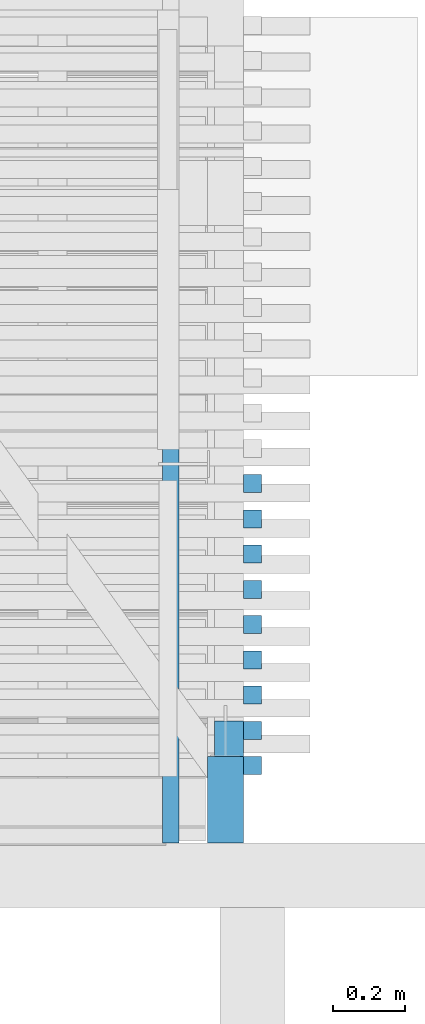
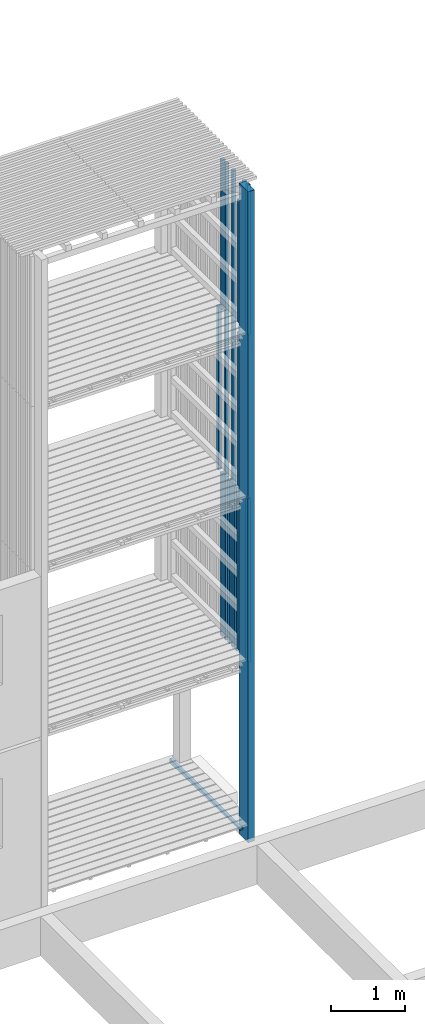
# One storey, part 70 of 182: 20 beams.
"""IFC2X3 building model written with IfcOpenShell, lengths in metres."""

from ifc_helpers import new_model, si_unit, frame, origin, place, context, project, spatial, faceted_brep, element, save


model = new_model("IFC2X3")

# Units and contexts
model_context = context("Model", 3, precision=1e-06, world=origin())
ifc_project = project(units=[si_unit("LENGTHUNIT", "METRE"), si_unit("PLANEANGLEUNIT", "RADIAN")], contexts=[model_context])

# Site, building, storey
site = spatial("IfcSite", under=ifc_project, CompositionType="ELEMENT")
building = spatial("IfcBuilding", under=site, CompositionType="ELEMENT")
storey = spatial("IfcBuildingStorey", under=building, Name="vs", CompositionType="ELEMENT", Elevation=-0.85)

# Beams
placement = place(None, origin())
beam_1_placement = place(placement, frame((26.399999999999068, 10.783259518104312, 7.974999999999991), z_axis=(-1.0, 0.0, 0.0), x_axis=(0.0, 0.0, 1.0)))
element("IfcBeam", 1, at=beam_1_placement, inside=storey, Name="Bardage", context=model_context, shape_type="Brep", body=[
    faceted_brep([(2.479999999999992, -0.025000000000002, 0.024999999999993), (2.479999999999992, -0.025000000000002, -0.025000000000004), (2.479999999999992, 0.024999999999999, -0.025000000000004), (2.479999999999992, 0.024999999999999, 0.024999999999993), (0.0, 0.024999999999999, 0.024999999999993), (0.0, -0.025000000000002, 0.024999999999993), (2.479999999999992, -0.025000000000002, 0.024999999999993), (2.479999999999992, 0.024999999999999, 0.024999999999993), (0.0, -0.025000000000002, 0.024999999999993), (0.0, 0.024999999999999, 0.024999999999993), (0.0, 0.024999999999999, -0.025000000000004), (0.0, -0.025000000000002, -0.025000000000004), (0.0, 0.024999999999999, -0.025000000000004), (0.0, 0.024999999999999, 0.024999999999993), (2.479999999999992, 0.024999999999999, 0.024999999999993), (2.479999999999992, 0.024999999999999, -0.025000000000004), (0.0, -0.025000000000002, -0.025000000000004), (0.0, 0.024999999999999, -0.025000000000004), (2.479999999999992, 0.024999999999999, -0.025000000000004), (2.479999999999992, -0.025000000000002, -0.025000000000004), (2.479999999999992, -0.025000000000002, 0.024999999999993), (0.0, -0.025000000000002, 0.024999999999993), (0.0, -0.025000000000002, -0.025000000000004), (2.479999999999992, -0.025000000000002, -0.025000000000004)], [[[0, 1, 2, 3]], [[4, 5, 6, 7]], [[8, 9, 10, 11]], [[12, 13, 14, 15]], [[16, 17, 18, 19]], [[20, 21, 22, 23]]]),
])
beam_2_placement = place(placement, frame((26.399999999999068, 11.274168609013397, 2.575000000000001), z_axis=(-1.0, 0.0, 0.0), x_axis=(0.0, 0.0, 1.0)))
element("IfcBeam", 2, at=beam_2_placement, inside=storey, Name="Bardage", context=model_context, shape_type="Brep", body=[
    faceted_brep([(0.0, -0.025000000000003, 0.024999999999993), (0.0, 0.024999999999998, 0.024999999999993), (0.0, 0.024999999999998, -0.025000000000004), (0.0, -0.025000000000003, -0.025000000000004), (2.699961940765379, 0.024999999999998, -0.025000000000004), (2.699961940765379, 0.024999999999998, 0.024999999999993), (2.699961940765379, -0.025000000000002, 0.024999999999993), (2.699961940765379, -0.025000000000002, -0.025000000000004), (0.0, -0.025000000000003, -0.025000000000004), (0.0, 0.024999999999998, -0.025000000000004), (2.699961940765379, 0.024999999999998, -0.025000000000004), (2.699961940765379, -0.025000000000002, -0.025000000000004), (2.699961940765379, 0.024999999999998, -0.025000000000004), (0.0, 0.024999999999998, -0.025000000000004), (0.0, 0.024999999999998, 0.024999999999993), (2.699961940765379, 0.024999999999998, 0.024999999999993), (2.699961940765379, 0.024999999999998, 0.024999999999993), (0.0, 0.024999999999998, 0.024999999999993), (0.0, -0.025000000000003, 0.024999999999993), (2.699961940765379, -0.025000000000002, 0.024999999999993), (2.699961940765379, -0.025000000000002, 0.024999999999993), (0.0, -0.025000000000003, 0.024999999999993), (0.0, -0.025000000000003, -0.025000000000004), (2.699961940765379, -0.025000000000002, -0.025000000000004)], [[[0, 1, 2, 3]], [[4, 5, 6, 7]], [[8, 9, 10, 11]], [[12, 13, 14, 15]], [[16, 17, 18, 19]], [[20, 21, 22, 23]]]),
])
beam_3_placement = place(placement, frame((26.399999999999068, 11.372350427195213, 7.974999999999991), z_axis=(-1.0, 0.0, 0.0), x_axis=(0.0, 0.0, 1.0)))
element("IfcBeam", 3, at=beam_3_placement, inside=storey, Name="Bardage", context=model_context, shape_type="Brep", body=[
    faceted_brep([(2.479999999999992, -0.024999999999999, 0.024999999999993), (2.479999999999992, -0.024999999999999, -0.025000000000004), (2.479999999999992, 0.024999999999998, -0.025000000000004), (2.479999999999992, 0.024999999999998, 0.024999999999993), (0.0, 0.024999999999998, 0.024999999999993), (0.0, -0.024999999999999, 0.024999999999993), (2.479999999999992, -0.024999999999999, 0.024999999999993), (2.479999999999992, 0.024999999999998, 0.024999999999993), (0.0, -0.024999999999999, 0.024999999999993), (0.0, 0.024999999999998, 0.024999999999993), (0.0, 0.024999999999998, -0.025000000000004), (0.0, -0.024999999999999, -0.025000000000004), (0.0, 0.024999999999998, -0.025000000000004), (0.0, 0.024999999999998, 0.024999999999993), (2.479999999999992, 0.024999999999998, 0.024999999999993), (2.479999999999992, 0.024999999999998, -0.025000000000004), (0.0, -0.024999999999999, -0.025000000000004), (0.0, 0.024999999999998, -0.025000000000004), (2.479999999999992, 0.024999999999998, -0.025000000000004), (2.479999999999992, -0.024999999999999, -0.025000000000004), (2.479999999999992, -0.024999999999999, 0.024999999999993), (0.0, -0.024999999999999, 0.024999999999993), (0.0, -0.024999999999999, -0.025000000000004), (2.479999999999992, -0.024999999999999, -0.025000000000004)], [[[0, 1, 2, 3]], [[4, 5, 6, 7]], [[8, 9, 10, 11]], [[12, 13, 14, 15]], [[16, 17, 18, 19]], [[20, 21, 22, 23]]]),
])
beam_4_placement = place(placement, frame((26.399999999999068, 11.17598679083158, 2.575000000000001), z_axis=(-1.0, 0.0, 0.0), x_axis=(0.0, 0.0, 1.0)))
element("IfcBeam", 4, at=beam_4_placement, inside=storey, Name="Bardage", context=model_context, shape_type="Brep", body=[
    faceted_brep([(0.0, -0.025000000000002, 0.024999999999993), (0.0, 0.024999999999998, 0.024999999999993), (0.0, 0.024999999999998, -0.025000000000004), (0.0, -0.025000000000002, -0.025000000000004), (2.699961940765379, 0.025000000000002, -0.025000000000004), (2.699961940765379, 0.025000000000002, 0.024999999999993), (2.699961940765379, -0.025000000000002, 0.024999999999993), (2.699961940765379, -0.025000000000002, -0.025000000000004), (0.0, -0.025000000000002, -0.025000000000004), (0.0, 0.024999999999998, -0.025000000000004), (2.699961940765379, 0.025000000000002, -0.025000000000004), (2.699961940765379, -0.025000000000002, -0.025000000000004), (2.699961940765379, 0.025000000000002, -0.025000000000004), (0.0, 0.024999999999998, -0.025000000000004), (0.0, 0.024999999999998, 0.024999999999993), (2.699961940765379, 0.025000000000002, 0.024999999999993), (2.699961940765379, 0.025000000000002, 0.024999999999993), (0.0, 0.024999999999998, 0.024999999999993), (0.0, -0.025000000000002, 0.024999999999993), (2.699961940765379, -0.025000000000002, 0.024999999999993), (2.699961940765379, -0.025000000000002, 0.024999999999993), (0.0, -0.025000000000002, 0.024999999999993), (0.0, -0.025000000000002, -0.025000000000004), (2.699961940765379, -0.025000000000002, -0.025000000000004)], [[[0, 1, 2, 3]], [[4, 5, 6, 7]], [[8, 9, 10, 11]], [[12, 13, 14, 15]], [[16, 17, 18, 19]], [[20, 21, 22, 23]]]),
])
beam_5_placement = place(placement, frame((26.399999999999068, 11.077804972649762, 2.575000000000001), z_axis=(-1.0, 0.0, 0.0), x_axis=(0.0, 0.0, 1.0)))
element("IfcBeam", 5, at=beam_5_placement, inside=storey, Name="Bardage", context=model_context, shape_type="Brep", body=[
    faceted_brep([(0.0, -0.024999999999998, 0.024999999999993), (0.0, 0.024999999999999, 0.024999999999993), (0.0, 0.024999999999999, -0.025000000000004), (0.0, -0.024999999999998, -0.025000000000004), (2.699961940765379, 0.024999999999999, -0.025000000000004), (2.699961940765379, 0.024999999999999, 0.024999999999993), (2.699961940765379, -0.024999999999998, 0.024999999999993), (2.699961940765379, -0.024999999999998, -0.025000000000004), (0.0, -0.024999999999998, -0.025000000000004), (0.0, 0.024999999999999, -0.025000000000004), (2.699961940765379, 0.024999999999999, -0.025000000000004), (2.699961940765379, -0.024999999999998, -0.025000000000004), (2.699961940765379, 0.024999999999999, -0.025000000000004), (0.0, 0.024999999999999, -0.025000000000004), (0.0, 0.024999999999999, 0.024999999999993), (2.699961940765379, 0.024999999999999, 0.024999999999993), (2.699961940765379, 0.024999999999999, 0.024999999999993), (0.0, 0.024999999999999, 0.024999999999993), (0.0, -0.024999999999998, 0.024999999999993), (2.699961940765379, -0.024999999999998, 0.024999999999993), (2.699961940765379, -0.024999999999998, 0.024999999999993), (0.0, -0.024999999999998, 0.024999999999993), (0.0, -0.024999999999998, -0.025000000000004), (2.699961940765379, -0.024999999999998, -0.025000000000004)], [[[0, 1, 2, 3]], [[4, 5, 6, 7]], [[8, 9, 10, 11]], [[12, 13, 14, 15]], [[16, 17, 18, 19]], [[20, 21, 22, 23]]]),
])
beam_6_placement = place(placement, frame((26.334999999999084, 10.760077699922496, 8.14699999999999), z_axis=(0.0, 1.0, 0.0), x_axis=(0.0, 0.0, 1.0)))
element("IfcBeam", 6, at=beam_6_placement, inside=storey, Name="Support bardage", context=model_context, shape_type="Brep", body=[
    faceted_brep([(2.017999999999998, 0.039999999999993, -0.050000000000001), (2.017999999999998, 0.039999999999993, 0.05), (2.017999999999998, -0.04000000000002, 0.05), (2.017999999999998, -0.04000000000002, -0.050000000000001), (1e-15, -0.04000000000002, -0.050000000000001), (1e-15, -0.04000000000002, 0.05), (1e-15, 0.039999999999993, 0.05), (1e-15, 0.039999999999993, -0.050000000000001), (1e-15, -0.04000000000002, -0.050000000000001), (1e-15, 0.039999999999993, -0.050000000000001), (2.017999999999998, 0.039999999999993, -0.050000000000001), (2.017999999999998, -0.04000000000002, -0.050000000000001), (1e-15, -0.04000000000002, 0.05), (1e-15, -0.04000000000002, -0.050000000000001), (2.017999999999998, -0.04000000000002, -0.050000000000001), (2.017999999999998, -0.04000000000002, 0.05), (1e-15, 0.039999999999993, 0.05), (1e-15, -0.04000000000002, 0.05), (2.017999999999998, -0.04000000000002, 0.05), (2.017999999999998, 0.039999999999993, 0.05), (1e-15, 0.039999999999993, -0.050000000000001), (1e-15, 0.039999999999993, 0.05), (2.017999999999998, 0.039999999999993, 0.05), (2.017999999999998, 0.039999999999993, -0.050000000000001)], [[[0, 1, 2, 3]], [[4, 5, 6, 7]], [[8, 9, 10, 11]], [[12, 13, 14, 15]], [[16, 17, 18, 19]], [[20, 21, 22, 23]]]),
])
beam_7_placement = place(placement, frame((26.399999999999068, 11.077804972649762, 7.974999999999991), z_axis=(-1.0, 0.0, 0.0), x_axis=(0.0, 0.0, 1.0)))
element("IfcBeam", 7, at=beam_7_placement, inside=storey, Name="Bardage", context=model_context, shape_type="Brep", body=[
    faceted_brep([(2.479999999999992, -0.024999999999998, 0.024999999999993), (2.479999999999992, -0.024999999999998, -0.025000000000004), (2.479999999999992, 0.024999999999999, -0.025000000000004), (2.479999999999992, 0.024999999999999, 0.024999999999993), (0.0, 0.024999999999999, 0.024999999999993), (0.0, -0.024999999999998, 0.024999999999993), (2.479999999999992, -0.024999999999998, 0.024999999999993), (2.479999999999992, 0.024999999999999, 0.024999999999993), (0.0, -0.024999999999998, 0.024999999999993), (0.0, 0.024999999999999, 0.024999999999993), (0.0, 0.024999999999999, -0.025000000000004), (0.0, -0.024999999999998, -0.025000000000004), (0.0, 0.024999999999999, -0.025000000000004), (0.0, 0.024999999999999, 0.024999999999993), (2.479999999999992, 0.024999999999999, 0.024999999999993), (2.479999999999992, 0.024999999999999, -0.025000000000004), (0.0, -0.024999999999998, -0.025000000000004), (0.0, 0.024999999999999, -0.025000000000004), (2.479999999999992, 0.024999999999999, -0.025000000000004), (2.479999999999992, -0.024999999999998, -0.025000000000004), (2.479999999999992, -0.024999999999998, 0.024999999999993), (0.0, -0.024999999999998, 0.024999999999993), (0.0, -0.024999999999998, -0.025000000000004), (2.479999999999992, -0.024999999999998, -0.025000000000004)], [[[0, 1, 2, 3]], [[4, 5, 6, 7]], [[8, 9, 10, 11]], [[12, 13, 14, 15]], [[16, 17, 18, 19]], [[20, 21, 22, 23]]]),
])
beam_8_placement = place(placement, frame((26.399999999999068, 11.274168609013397, 5.274999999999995), z_axis=(-1.0, 0.0, 0.0), x_axis=(0.0, 0.0, 1.0)))
element("IfcBeam", 8, at=beam_8_placement, inside=storey, Name="Bardage", context=model_context, shape_type="Brep", body=[
    faceted_brep([(1e-15, -0.025000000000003, 0.024999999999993), (1e-15, 0.024999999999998, 0.024999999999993), (1e-15, 0.024999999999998, -0.025000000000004), (1e-15, -0.025000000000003, -0.025000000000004), (2.699999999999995, -0.025000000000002, -0.025000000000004), (2.699999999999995, 0.024999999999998, -0.025000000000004), (2.699999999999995, 0.024999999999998, 0.024999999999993), (2.699999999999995, -0.025000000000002, 0.024999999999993), (1e-15, -0.025000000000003, 0.024999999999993), (1e-15, -0.025000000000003, -0.025000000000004), (2.699999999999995, -0.025000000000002, -0.025000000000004), (2.699999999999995, -0.025000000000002, 0.024999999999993), (2.699999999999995, -0.025000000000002, -0.025000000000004), (1e-15, -0.025000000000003, -0.025000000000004), (1e-15, 0.024999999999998, -0.025000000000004), (2.699999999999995, 0.024999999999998, -0.025000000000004), (2.699999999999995, 0.024999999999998, -0.025000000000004), (1e-15, 0.024999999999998, -0.025000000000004), (1e-15, 0.024999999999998, 0.024999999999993), (2.699999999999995, 0.024999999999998, 0.024999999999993), (2.699999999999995, 0.024999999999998, 0.024999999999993), (1e-15, 0.024999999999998, 0.024999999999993), (1e-15, -0.025000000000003, 0.024999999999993), (2.699999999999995, -0.025000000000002, 0.024999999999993)], [[[0, 1, 2, 3]], [[4, 5, 6, 7]], [[8, 9, 10, 11]], [[12, 13, 14, 15]], [[16, 17, 18, 19]], [[20, 21, 22, 23]]]),
])
beam_9_placement = place(placement, frame((26.399999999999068, 10.97962315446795, 2.575000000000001), z_axis=(-1.0, 0.0, 0.0), x_axis=(0.0, 0.0, 1.0)))
element("IfcBeam", 9, at=beam_9_placement, inside=storey, Name="Bardage", context=model_context, shape_type="Brep", body=[
    faceted_brep([(0.0, -0.025000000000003, 0.024999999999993), (0.0, 0.024999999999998, 0.024999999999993), (0.0, 0.024999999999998, -0.025000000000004), (0.0, -0.025000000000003, -0.025000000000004), (2.699961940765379, 0.024999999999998, -0.025000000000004), (2.699961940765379, 0.024999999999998, 0.024999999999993), (2.699961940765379, -0.025000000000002, 0.024999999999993), (2.699961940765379, -0.025000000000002, -0.025000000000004), (0.0, -0.025000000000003, -0.025000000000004), (0.0, 0.024999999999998, -0.025000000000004), (2.699961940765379, 0.024999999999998, -0.025000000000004), (2.699961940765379, -0.025000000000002, -0.025000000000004), (2.699961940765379, 0.024999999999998, -0.025000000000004), (0.0, 0.024999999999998, -0.025000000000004), (0.0, 0.024999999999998, 0.024999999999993), (2.699961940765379, 0.024999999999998, 0.024999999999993), (2.699961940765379, 0.024999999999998, 0.024999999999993), (0.0, 0.024999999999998, 0.024999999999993), (0.0, -0.025000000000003, 0.024999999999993), (2.699961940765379, -0.025000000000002, 0.024999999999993), (2.699961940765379, -0.025000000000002, 0.024999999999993), (0.0, -0.025000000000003, 0.024999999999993), (0.0, -0.025000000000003, -0.025000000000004), (2.699961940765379, -0.025000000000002, -0.025000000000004)], [[[0, 1, 2, 3]], [[4, 5, 6, 7]], [[8, 9, 10, 11]], [[12, 13, 14, 15]], [[16, 17, 18, 19]], [[20, 21, 22, 23]]]),
])
beam_10_placement = place(placement, frame((26.324999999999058, 10.590077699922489, 10.494999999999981), z_axis=(0.0, 1.0, 0.0), x_axis=(0.0, 0.0, -1.0)))
element("IfcBeam", 10, at=beam_10_placement, inside=storey, Name="Poteau", context=model_context, shape_type="Brep", body=[
    faceted_brep([(0.0, -0.050000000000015, -0.120000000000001), (10.754999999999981, -0.050000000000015, -0.120000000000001), (10.754999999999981, -0.050000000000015, 0.120000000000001), (0.0, -0.050000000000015, 0.120000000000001), (0.0, 0.049999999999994, -0.120000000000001), (10.754999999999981, 0.049999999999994, -0.120000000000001), (10.754999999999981, -0.050000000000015, -0.120000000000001), (0.0, -0.050000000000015, -0.120000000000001), (10.754999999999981, -0.050000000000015, 0.120000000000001), (10.754999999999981, -0.050000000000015, -0.120000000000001), (10.754999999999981, 0.049999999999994, -0.120000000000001), (10.754999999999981, 0.049999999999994, 0.120000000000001), (0.0, -0.050000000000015, 0.120000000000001), (10.754999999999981, -0.050000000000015, 0.120000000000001), (10.754999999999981, 0.049999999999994, 0.120000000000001), (0.0, 0.049999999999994, 0.120000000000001), (0.0, 0.049999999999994, 0.120000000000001), (10.754999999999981, 0.049999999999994, 0.120000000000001), (10.754999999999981, 0.049999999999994, -0.120000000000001), (0.0, 0.049999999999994, -0.120000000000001), (0.0, 0.049999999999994, 0.120000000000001), (0.0, 0.049999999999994, -0.120000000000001), (0.0, -0.050000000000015, -0.120000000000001), (0.0, -0.050000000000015, 0.120000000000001)], [[[0, 1, 2, 3]], [[4, 5, 6, 7]], [[8, 9, 10, 11]], [[12, 13, 14, 15]], [[16, 17, 18, 19]], [[20, 21, 22, 23]]]),
])
beam_11_placement = place(placement, frame((26.399999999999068, 11.274168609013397, 7.974999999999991), z_axis=(-1.0, 0.0, 0.0), x_axis=(0.0, 0.0, 1.0)))
element("IfcBeam", 11, at=beam_11_placement, inside=storey, Name="Bardage", context=model_context, shape_type="Brep", body=[
    faceted_brep([(2.479999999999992, -0.025000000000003, 0.024999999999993), (2.479999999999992, -0.025000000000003, -0.025000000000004), (2.479999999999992, 0.024999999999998, -0.025000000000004), (2.479999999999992, 0.024999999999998, 0.024999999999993), (0.0, 0.024999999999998, 0.024999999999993), (0.0, -0.025000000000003, 0.024999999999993), (2.479999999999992, -0.025000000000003, 0.024999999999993), (2.479999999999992, 0.024999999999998, 0.024999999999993), (0.0, -0.025000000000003, 0.024999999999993), (0.0, 0.024999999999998, 0.024999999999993), (0.0, 0.024999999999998, -0.025000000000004), (0.0, -0.025000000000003, -0.025000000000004), (0.0, 0.024999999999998, -0.025000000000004), (0.0, 0.024999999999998, 0.024999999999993), (2.479999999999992, 0.024999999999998, 0.024999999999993), (2.479999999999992, 0.024999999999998, -0.025000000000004), (0.0, -0.025000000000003, -0.025000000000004), (0.0, 0.024999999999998, -0.025000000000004), (2.479999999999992, 0.024999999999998, -0.025000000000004), (2.479999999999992, -0.025000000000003, -0.025000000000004), (2.479999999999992, -0.025000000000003, 0.024999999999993), (0.0, -0.025000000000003, 0.024999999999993), (0.0, -0.025000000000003, -0.025000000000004), (2.479999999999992, -0.025000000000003, -0.025000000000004)], [[[0, 1, 2, 3]], [[4, 5, 6, 7]], [[8, 9, 10, 11]], [[12, 13, 14, 15]], [[16, 17, 18, 19]], [[20, 21, 22, 23]]]),
])
beam_12_placement = place(placement, frame((26.334999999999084, 10.760077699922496, 2.746999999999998), z_axis=(0.0, 1.0, 0.0), x_axis=(0.0, 0.0, 1.0)))
element("IfcBeam", 12, at=beam_12_placement, inside=storey, Name="Support bardage", context=model_context, shape_type="Brep", body=[
    faceted_brep([(2.527961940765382, 0.039999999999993, -0.050000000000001), (2.527961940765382, 0.039999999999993, 0.05), (2.527961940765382, -0.04000000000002, 0.05), (2.527961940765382, -0.04000000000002, -0.050000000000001), (0.0, -0.04000000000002, -0.050000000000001), (0.0, 0.039999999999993, -0.050000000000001), (2.527961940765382, 0.039999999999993, -0.050000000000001), (2.527961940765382, -0.04000000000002, -0.050000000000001), (0.0, 0.039999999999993, -0.050000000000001), (0.0, -0.04000000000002, -0.050000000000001), (0.0, -0.04000000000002, 0.05), (0.0, 0.039999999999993, 0.05), (2.527961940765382, 0.039999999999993, -0.050000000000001), (0.0, 0.039999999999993, -0.050000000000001), (0.0, 0.039999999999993, 0.05), (2.527961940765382, 0.039999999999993, 0.05), (2.527961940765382, 0.039999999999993, 0.05), (0.0, 0.039999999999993, 0.05), (0.0, -0.04000000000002, 0.05), (2.527961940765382, -0.04000000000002, 0.05), (2.527961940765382, -0.04000000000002, 0.05), (0.0, -0.04000000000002, 0.05), (0.0, -0.04000000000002, -0.050000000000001), (2.527961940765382, -0.04000000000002, -0.050000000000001)], [[[0, 1, 2, 3]], [[4, 5, 6, 7]], [[8, 9, 10, 11]], [[12, 13, 14, 15]], [[16, 17, 18, 19]], [[20, 21, 22, 23]]]),
])
beam_13_placement = place(placement, frame((26.399999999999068, 10.6850776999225, 2.575000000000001), z_axis=(-1.0, 0.0, 0.0), x_axis=(0.0, 0.0, 1.0)))
element("IfcBeam", 13, at=beam_13_placement, inside=storey, Name="Bardage", context=model_context, shape_type="Brep", body=[
    faceted_brep([(0.0, -0.025000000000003, 0.024999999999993), (0.0, 0.024999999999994, 0.024999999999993), (0.0, 0.024999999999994, -0.025000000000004), (0.0, -0.025000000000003, -0.025000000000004), (2.699961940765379, 0.024999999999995, -0.025000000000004), (2.699961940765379, 0.024999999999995, 0.024999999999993), (2.699961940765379, -0.025000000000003, 0.024999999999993), (2.699961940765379, -0.025000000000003, -0.025000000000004), (0.0, -0.025000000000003, -0.025000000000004), (0.0, 0.024999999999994, -0.025000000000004), (2.699961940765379, 0.024999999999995, -0.025000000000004), (2.699961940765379, -0.025000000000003, -0.025000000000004), (2.699961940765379, 0.024999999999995, -0.025000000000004), (0.0, 0.024999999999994, -0.025000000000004), (0.0, 0.024999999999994, 0.024999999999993), (2.699961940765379, 0.024999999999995, 0.024999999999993), (2.699961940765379, 0.024999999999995, 0.024999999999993), (0.0, 0.024999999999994, 0.024999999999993), (0.0, -0.025000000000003, 0.024999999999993), (2.699961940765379, -0.025000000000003, 0.024999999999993), (2.699961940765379, -0.025000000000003, 0.024999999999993), (0.0, -0.025000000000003, 0.024999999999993), (0.0, -0.025000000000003, -0.025000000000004), (2.699961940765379, -0.025000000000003, -0.025000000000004)], [[[0, 1, 2, 3]], [[4, 5, 6, 7]], [[8, 9, 10, 11]], [[12, 13, 14, 15]], [[16, 17, 18, 19]], [[20, 21, 22, 23]]]),
])
beam_14_placement = place(placement, frame((26.399999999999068, 11.470532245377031, 5.274999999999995), z_axis=(-1.0, 0.0, 0.0), x_axis=(0.0, 0.0, 1.0)))
element("IfcBeam", 14, at=beam_14_placement, inside=storey, Name="Bardage", context=model_context, shape_type="Brep", body=[
    faceted_brep([(1e-15, -0.025000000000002, 0.024999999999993), (1e-15, 0.025000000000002, 0.024999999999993), (1e-15, 0.025000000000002, -0.025000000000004), (1e-15, -0.025000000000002, -0.025000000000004), (2.699999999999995, -0.025000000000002, -0.025000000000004), (2.699999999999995, 0.025000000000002, -0.025000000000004), (2.699999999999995, 0.025000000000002, 0.024999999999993), (2.699999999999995, -0.025000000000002, 0.024999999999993), (1e-15, -0.025000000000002, 0.024999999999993), (1e-15, -0.025000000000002, -0.025000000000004), (2.699999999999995, -0.025000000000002, -0.025000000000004), (2.699999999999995, -0.025000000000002, 0.024999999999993), (2.699999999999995, -0.025000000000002, -0.025000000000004), (1e-15, -0.025000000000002, -0.025000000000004), (1e-15, 0.025000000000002, -0.025000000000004), (2.699999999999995, 0.025000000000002, -0.025000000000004), (2.699999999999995, 0.025000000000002, -0.025000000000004), (1e-15, 0.025000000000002, -0.025000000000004), (1e-15, 0.025000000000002, 0.024999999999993), (2.699999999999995, 0.025000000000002, 0.024999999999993), (2.699999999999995, 0.025000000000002, 0.024999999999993), (1e-15, 0.025000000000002, 0.024999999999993), (1e-15, -0.025000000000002, 0.024999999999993), (2.699999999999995, -0.025000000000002, 0.024999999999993)], [[[0, 1, 2, 3]], [[4, 5, 6, 7]], [[8, 9, 10, 11]], [[12, 13, 14, 15]], [[16, 17, 18, 19]], [[20, 21, 22, 23]]]),
])
beam_15_placement = place(placement, frame((26.399999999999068, 10.6850776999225, 7.974999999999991), z_axis=(-1.0, 0.0, 0.0), x_axis=(0.0, 0.0, 1.0)))
element("IfcBeam", 15, at=beam_15_placement, inside=storey, Name="Bardage", context=model_context, shape_type="Brep", body=[
    faceted_brep([(2.479999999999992, -0.025000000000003, 0.024999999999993), (2.479999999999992, -0.025000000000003, -0.025000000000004), (2.479999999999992, 0.024999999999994, -0.025000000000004), (2.479999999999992, 0.024999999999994, 0.024999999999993), (0.0, 0.024999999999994, 0.024999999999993), (0.0, -0.025000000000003, 0.024999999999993), (2.479999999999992, -0.025000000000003, 0.024999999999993), (2.479999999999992, 0.024999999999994, 0.024999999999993), (0.0, -0.025000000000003, 0.024999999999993), (0.0, 0.024999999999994, 0.024999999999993), (0.0, 0.024999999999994, -0.025000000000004), (0.0, -0.025000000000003, -0.025000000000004), (0.0, 0.024999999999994, -0.025000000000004), (0.0, 0.024999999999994, 0.024999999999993), (2.479999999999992, 0.024999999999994, 0.024999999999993), (2.479999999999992, 0.024999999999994, -0.025000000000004), (0.0, -0.025000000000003, -0.025000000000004), (0.0, 0.024999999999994, -0.025000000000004), (2.479999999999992, 0.024999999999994, -0.025000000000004), (2.479999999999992, -0.025000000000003, -0.025000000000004), (2.479999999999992, -0.025000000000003, 0.024999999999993), (0.0, -0.025000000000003, 0.024999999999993), (0.0, -0.025000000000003, -0.025000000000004), (2.479999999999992, -0.025000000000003, -0.025000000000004)], [[[0, 1, 2, 3]], [[4, 5, 6, 7]], [[8, 9, 10, 11]], [[12, 13, 14, 15]], [[16, 17, 18, 19]], [[20, 21, 22, 23]]]),
])
beam_16_placement = place(placement, frame((26.399999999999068, 11.077804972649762, 5.274999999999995), z_axis=(-1.0, 0.0, 0.0), x_axis=(0.0, 0.0, 1.0)))
element("IfcBeam", 16, at=beam_16_placement, inside=storey, Name="Bardage", context=model_context, shape_type="Brep", body=[
    faceted_brep([(1e-15, -0.024999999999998, 0.024999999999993), (1e-15, 0.024999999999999, 0.024999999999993), (1e-15, 0.024999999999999, -0.025000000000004), (1e-15, -0.024999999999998, -0.025000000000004), (2.699999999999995, -0.024999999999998, -0.025000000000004), (2.699999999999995, 0.024999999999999, -0.025000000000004), (2.699999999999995, 0.024999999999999, 0.024999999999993), (2.699999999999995, -0.024999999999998, 0.024999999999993), (1e-15, -0.024999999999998, 0.024999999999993), (1e-15, -0.024999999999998, -0.025000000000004), (2.699999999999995, -0.024999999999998, -0.025000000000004), (2.699999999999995, -0.024999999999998, 0.024999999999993), (2.699999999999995, -0.024999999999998, -0.025000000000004), (1e-15, -0.024999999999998, -0.025000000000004), (1e-15, 0.024999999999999, -0.025000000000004), (2.699999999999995, 0.024999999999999, -0.025000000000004), (2.699999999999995, 0.024999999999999, -0.025000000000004), (1e-15, 0.024999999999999, -0.025000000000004), (1e-15, 0.024999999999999, 0.024999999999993), (2.699999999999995, 0.024999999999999, 0.024999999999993), (2.699999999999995, 0.024999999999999, 0.024999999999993), (1e-15, 0.024999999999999, 0.024999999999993), (1e-15, -0.024999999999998, 0.024999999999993), (2.699999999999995, -0.024999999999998, 0.024999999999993)], [[[0, 1, 2, 3]], [[4, 5, 6, 7]], [[8, 9, 10, 11]], [[12, 13, 14, 15]], [[16, 17, 18, 19]], [[20, 21, 22, 23]]]),
])
beam_17_placement = place(placement, frame((26.172499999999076, 10.470077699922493, -0.015599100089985), z_axis=(0.0, 0.0, 1.0), x_axis=(0.0, 1.0, 0.0)))
element("IfcBeam", 17, at=beam_17_placement, inside=storey, Name="Calage", context=model_context, shape_type="Brep", body=[
    faceted_brep([(1.91000000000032, -0.022499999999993, -0.035599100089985), (0.0, -0.022499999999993, 0.002600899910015), (0.0, 0.022500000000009, 0.002600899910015), (1.91000000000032, 0.022500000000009, -0.035599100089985), (0.0, -0.022499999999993, 0.035599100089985), (0.0, 0.022500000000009, 0.035599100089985), (0.0, 0.022500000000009, 0.002600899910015), (0.0, -0.022499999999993, 0.002600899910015), (0.0, 0.022500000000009, 0.035599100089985), (0.0, -0.022499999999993, 0.035599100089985), (1.91000000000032, -0.022499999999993, 0.035599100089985), (1.91000000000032, 0.022500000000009, 0.035599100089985), (1.91000000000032, -0.022499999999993, 0.035599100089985), (0.0, -0.022499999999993, 0.035599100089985), (0.0, -0.022499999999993, 0.002600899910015), (1.91000000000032, -0.022499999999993, -0.035599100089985), (1.91000000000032, 0.022500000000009, 0.035599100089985), (1.91000000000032, -0.022499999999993, 0.035599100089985), (1.91000000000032, -0.022499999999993, -0.035599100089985), (1.91000000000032, 0.022500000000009, -0.035599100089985), (0.0, 0.022500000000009, 0.002600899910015), (0.0, 0.022500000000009, 0.035599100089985), (1.91000000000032, 0.022500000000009, 0.035599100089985), (1.91000000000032, 0.022500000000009, -0.035599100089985)], [[[0, 1, 2, 3]], [[4, 5, 6, 7]], [[8, 9, 10, 11]], [[12, 13, 14, 15]], [[16, 17, 18, 19]], [[20, 21, 22, 23]]]),
])
beam_18_placement = place(placement, frame((26.334999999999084, 10.760077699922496, 5.446999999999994), z_axis=(0.0, 1.0, 0.0), x_axis=(0.0, 0.0, 1.0)))
element("IfcBeam", 18, at=beam_18_placement, inside=storey, Name="Support bardage", context=model_context, shape_type="Brep", body=[
    faceted_brep([(2.527999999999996, -0.04000000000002, -0.050000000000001), (2.527999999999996, 0.039999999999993, -0.050000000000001), (2.527999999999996, 0.039999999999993, 0.05), (2.527999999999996, -0.04000000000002, 0.05), (-1e-15, -0.04000000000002, 0.05), (-1e-15, -0.04000000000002, -0.050000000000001), (2.527999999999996, -0.04000000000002, -0.050000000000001), (2.527999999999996, -0.04000000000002, 0.05), (-1e-15, -0.04000000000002, -0.050000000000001), (-1e-15, -0.04000000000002, 0.05), (-1e-15, 0.039999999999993, 0.05), (-1e-15, 0.039999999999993, -0.050000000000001), (2.527999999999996, -0.04000000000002, -0.050000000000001), (-1e-15, -0.04000000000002, -0.050000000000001), (-1e-15, 0.039999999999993, -0.050000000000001), (2.527999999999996, 0.039999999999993, -0.050000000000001), (2.527999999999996, 0.039999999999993, -0.050000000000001), (-1e-15, 0.039999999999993, -0.050000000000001), (-1e-15, 0.039999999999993, 0.05), (2.527999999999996, 0.039999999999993, 0.05), (2.527999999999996, 0.039999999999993, 0.05), (-1e-15, 0.039999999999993, 0.05), (-1e-15, -0.04000000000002, 0.05), (2.527999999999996, -0.04000000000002, 0.05)], [[[0, 1, 2, 3]], [[4, 5, 6, 7]], [[8, 9, 10, 11]], [[12, 13, 14, 15]], [[16, 17, 18, 19]], [[20, 21, 22, 23]]]),
])
beam_19_placement = place(placement, frame((26.399999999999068, 10.881441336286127, 5.274999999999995), z_axis=(-1.0, 0.0, 0.0), x_axis=(0.0, 0.0, 1.0)))
element("IfcBeam", 19, at=beam_19_placement, inside=storey, Name="Bardage", context=model_context, shape_type="Brep", body=[
    faceted_brep([(1e-15, -0.024999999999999, 0.024999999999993), (1e-15, 0.025000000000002, 0.024999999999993), (1e-15, 0.025000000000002, -0.025000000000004), (1e-15, -0.024999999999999, -0.025000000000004), (2.699999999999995, -0.024999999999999, -0.025000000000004), (2.699999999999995, 0.025000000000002, -0.025000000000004), (2.699999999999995, 0.025000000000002, 0.024999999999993), (2.699999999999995, -0.024999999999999, 0.024999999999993), (1e-15, -0.024999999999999, 0.024999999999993), (1e-15, -0.024999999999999, -0.025000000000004), (2.699999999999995, -0.024999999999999, -0.025000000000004), (2.699999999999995, -0.024999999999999, 0.024999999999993), (2.699999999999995, -0.024999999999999, -0.025000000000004), (1e-15, -0.024999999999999, -0.025000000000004), (1e-15, 0.025000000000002, -0.025000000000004), (2.699999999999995, 0.025000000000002, -0.025000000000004), (2.699999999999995, 0.025000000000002, -0.025000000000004), (1e-15, 0.025000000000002, -0.025000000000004), (1e-15, 0.025000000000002, 0.024999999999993), (2.699999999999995, 0.025000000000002, 0.024999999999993), (2.699999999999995, 0.025000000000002, 0.024999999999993), (1e-15, 0.025000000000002, 0.024999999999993), (1e-15, -0.024999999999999, 0.024999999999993), (2.699999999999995, -0.024999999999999, 0.024999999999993)], [[[0, 1, 2, 3]], [[4, 5, 6, 7]], [[8, 9, 10, 11]], [[12, 13, 14, 15]], [[16, 17, 18, 19]], [[20, 21, 22, 23]]]),
])
beam_20_placement = place(placement, frame((26.399999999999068, 11.372350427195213, 2.575000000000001), z_axis=(-1.0, 0.0, 0.0), x_axis=(0.0, 0.0, 1.0)))
element("IfcBeam", 20, at=beam_20_placement, inside=storey, Name="Bardage", context=model_context, shape_type="Brep", body=[
    faceted_brep([(0.0, -0.024999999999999, 0.024999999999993), (0.0, 0.024999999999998, 0.024999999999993), (0.0, 0.024999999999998, -0.025000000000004), (0.0, -0.024999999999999, -0.025000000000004), (2.699961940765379, 0.025000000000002, -0.025000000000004), (2.699961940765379, 0.025000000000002, 0.024999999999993), (2.699961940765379, -0.024999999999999, 0.024999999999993), (2.699961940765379, -0.024999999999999, -0.025000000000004), (0.0, -0.024999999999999, -0.025000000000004), (0.0, 0.024999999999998, -0.025000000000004), (2.699961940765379, 0.025000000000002, -0.025000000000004), (2.699961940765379, -0.024999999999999, -0.025000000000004), (2.699961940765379, 0.025000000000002, -0.025000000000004), (0.0, 0.024999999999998, -0.025000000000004), (0.0, 0.024999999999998, 0.024999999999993), (2.699961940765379, 0.025000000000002, 0.024999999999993), (2.699961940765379, 0.025000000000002, 0.024999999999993), (0.0, 0.024999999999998, 0.024999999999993), (0.0, -0.024999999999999, 0.024999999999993), (2.699961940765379, -0.024999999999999, 0.024999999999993), (2.699961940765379, -0.024999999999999, 0.024999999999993), (0.0, -0.024999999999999, 0.024999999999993), (0.0, -0.024999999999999, -0.025000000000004), (2.699961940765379, -0.024999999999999, -0.025000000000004)], [[[0, 1, 2, 3]], [[4, 5, 6, 7]], [[8, 9, 10, 11]], [[12, 13, 14, 15]], [[16, 17, 18, 19]], [[20, 21, 22, 23]]]),
])

save(model, "model.ifc")
